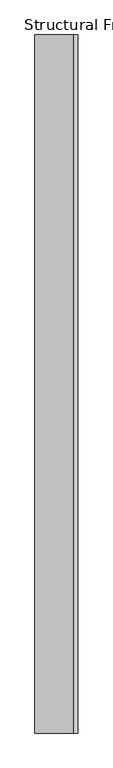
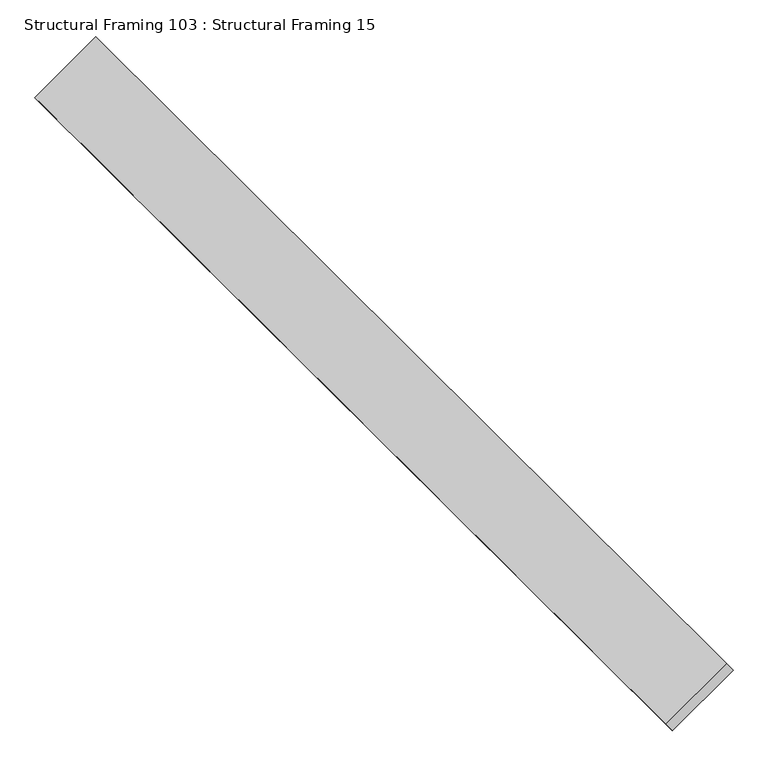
"""IFC4 building model written with IfcOpenShell, lengths in millimetres: beam geometry, Structural Framing 103 : Structural Framing 15."""

from ifc_helpers import new_model, si_unit, frame, origin, place, context, project, spatial, polyline, outline, extrude, source, transform, mapped, element, save


def structural_framing_103_structural_framing_15_b869128d(model_context):
    return source(origin(), model_context, "Body", "SweptSolid", [
        extrude(outline(polyline([(0.0, -174.3446796), (0.0, 0.0), (2558.4556079, 0.0), (2558.4556079, -174.3446796), (0.0, -174.3446796)])), frame((1206.7789073, 3995.5508021, 2800.0), z_axis=(-0.5735764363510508, 0.0, 0.8191520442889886), x_axis=(0.0, -1.0, 0.0)), (0.0, 0.0, 1.0), 25.0),
    ])


if __name__ == "__main__":
    model = new_model("IFC4")
    model_context = context("Model", 3, world=origin())
    ifc_project = project(units=[si_unit("LENGTHUNIT", "METRE", prefix="MILLI")], contexts=[model_context])
    site = spatial("IfcSite", under=ifc_project)
    building = spatial("IfcBuilding", under=site)
    placement = place(None, origin())
    structural_framing_103_structural_framing_15_shape = structural_framing_103_structural_framing_15_b869128d(model_context)
    element("IfcBeam", 1, ObjectType="Structural Framing 103 : Structural Framing 15", at=placement, inside=building, context=model_context, shape_type="MappedRepresentation", body=[
        mapped(structural_framing_103_structural_framing_15_shape, transform((0.0, 0.0, 0.0), x_axis=(1.0, 0.0, 0.0), y_axis=(0.0, 1.0, 0.0), z_axis=(0.0, 0.0, 1.0))),
    ])
    save(model, "model.ifc")
